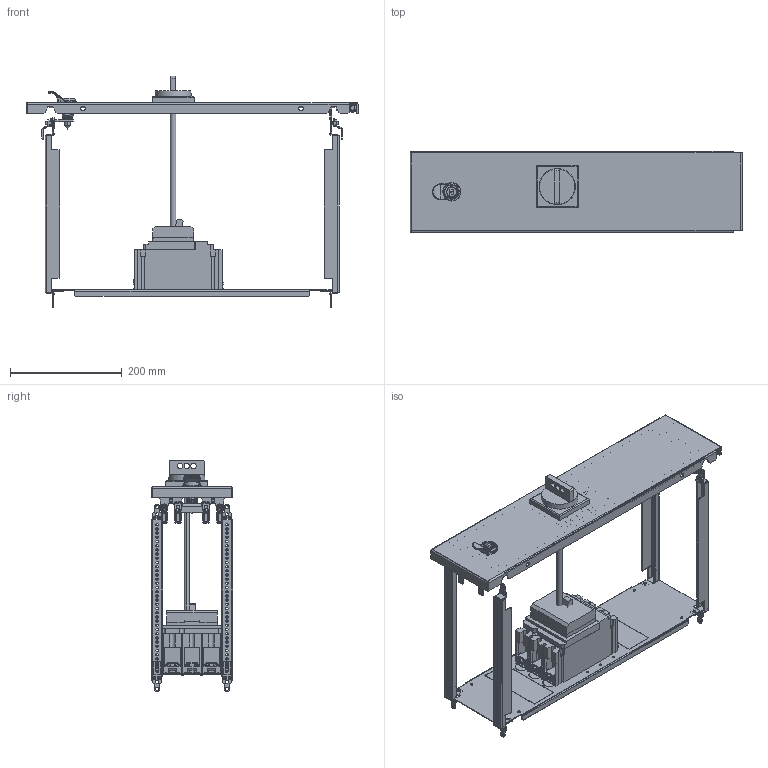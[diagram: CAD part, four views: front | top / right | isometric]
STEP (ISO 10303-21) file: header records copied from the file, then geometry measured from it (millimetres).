
FILE_DESCRIPTION(('CAx-IF Rec.Pracs.---Model Styling and Organization---1.2---2011-12-15','CAx-IF Rec.Pracs.---Geometric and Assembly Validation Properties---4.1---2014-06-16','CAx-IF Rec.Pracs.---PMI Polyline Presentation---2.0---2013-05-24'),'2;1');
FILE_NAME('R5PKEB7H62213 (F).stp','2021-07-29T02:14:00+03:00',(''),(''),'STEP Interface 4.4 by CT CoreTechnologie','3D_Evolution4.4 by CT CoreTechnologie','');
FILE_SCHEMA(('AUTOMOTIVE_DESIGN { 1 0 10303 214 1 1 1 1 }'));
Length unit declared in the file: millimetre
Products named in the file (1): R5PKEB7H62213 (F)
Bounding box: 594 x 145 x 413.9 mm (x, y, z)
Surface area: 851656.4 mm2 (no closed solid volume)
Topology: 0 solids, 81 shells, 3101 faces, 8524 edges, 5609 vertices
Faces by surface type: plane 1612, cylinder 1073, bspline 416
Entity records: 110836 total; most frequent: CARTESIAN_POINT 30903, ORIENTED_EDGE 16982, DIRECTION 16054, EDGE_CURVE 8491, VECTOR 5640, LINE 5640, VERTEX_POINT 5626, AXIS2_PLACEMENT_3D 5207
